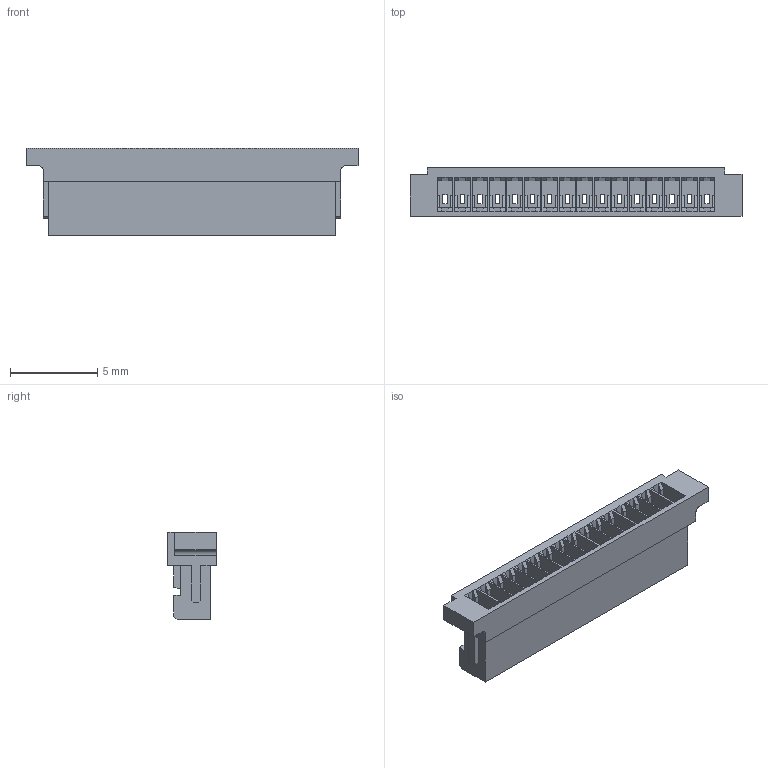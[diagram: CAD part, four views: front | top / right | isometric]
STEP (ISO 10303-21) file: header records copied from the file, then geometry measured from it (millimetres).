
FILE_DESCRIPTION(('CATIA V5 STEP Exchange'),'2;1');
FILE_NAME('\\Erp\共享文件夹\3D文件\小覃\条形连接器-小黄\1.0系列\德利\NY\HC-1.0-16Y-05(1.0 单排孔座-HCTL).stp','2025-03-07T09:02:43+00:00',('none'),('none'),'CATIA Version 5 Release 20 GA (IN-10)','CATIA V5 STEP AP203','none');
FILE_SCHEMA(('CONFIG_CONTROL_DESIGN'));
Length unit declared in the file: millimetre
Products named in the file (1): Part2
Bounding box: 19 x 2.8 x 5 mm (x, y, z)
Volume: 88.8 mm3; surface area: 687.1 mm2
Topology: 1 solids, 1 shells, 761 faces, 2137 edges, 1362 vertices
Faces by surface type: plane 742, cylinder 19
Entity records: 21485 total; most frequent: ORIENTED_EDGE 4274, CARTESIAN_POINT 3941, DIRECTION 2603, EDGE_CURVE 2137, VECTOR 1971, LINE 1971, VERTEX_POINT 1362, EDGE_LOOP 809
